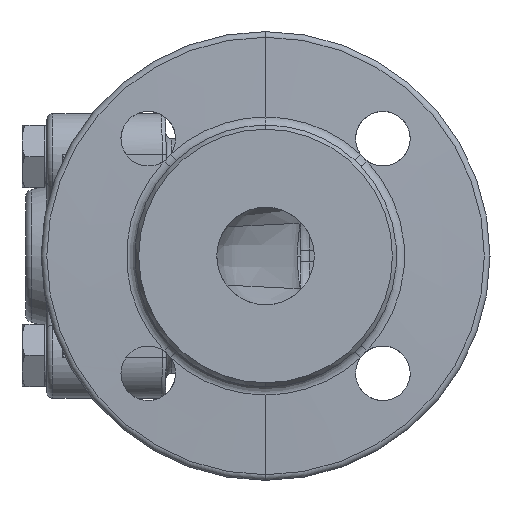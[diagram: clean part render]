
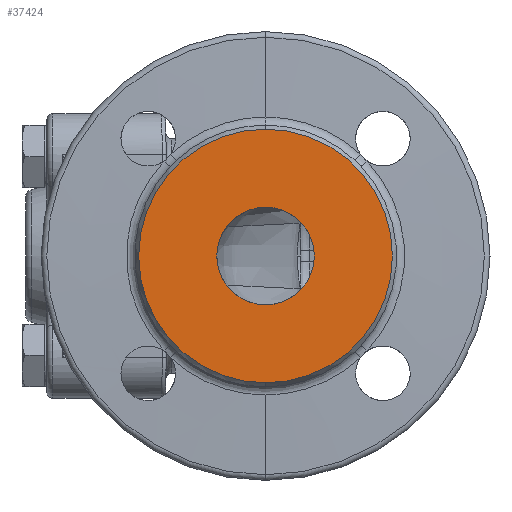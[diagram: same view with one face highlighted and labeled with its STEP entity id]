
A CAD part, left-side view. The second image highlights one B-rep face of the part: STEP entity #37424.
In plain terms, the highlighted planar face has unit normal (-1, 0, 0).
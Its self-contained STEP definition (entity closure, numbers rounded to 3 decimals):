
#1128 = CARTESIAN_POINT ( 'NONE',  ( 0., 0., 12.5 ) ) ;
#1390 = CIRCLE ( 'NONE', #37518, 32.5 ) ;
#3066 = FACE_OUTER_BOUND ( 'NONE', #45760, .T. ) ;
#3103 = CARTESIAN_POINT ( 'NONE',  ( 0., 0., -32.5 ) ) ;
#10876 = ORIENTED_EDGE ( 'NONE', *, *, #67785, .F. ) ;
#13452 = AXIS2_PLACEMENT_3D ( 'NONE', #49371, #37642, #60703 ) ;
#13873 = EDGE_CURVE ( 'NONE', #64252, #14428, #60774, .T. ) ;
#14428 = VERTEX_POINT ( 'NONE', #3103 ) ;
#15509 = ORIENTED_EDGE ( 'NONE', *, *, #53933, .T. ) ;
#23521 = AXIS2_PLACEMENT_3D ( 'NONE', #73814, #31997, #62507 ) ;
#29956 = EDGE_CURVE ( 'NONE', #35024, #36922, #51453, .T. ) ;
#31997 = DIRECTION ( 'NONE',  ( -1., 0., 0. ) ) ;
#32182 = CIRCLE ( 'NONE', #13452, 12.5 ) ;
#33529 = CARTESIAN_POINT ( 'NONE',  ( 0., 0., 0. ) ) ;
#35024 = VERTEX_POINT ( 'NONE', #39684 ) ;
#36330 = DIRECTION ( 'NONE',  ( -1., 0., 0. ) ) ;
#36922 = VERTEX_POINT ( 'NONE', #1128 ) ;
#37424 = ADVANCED_FACE ( 'NONE', ( #56606, #3066 ), #39014, .T. ) ;
#37518 = AXIS2_PLACEMENT_3D ( 'NONE', #71119, #36330, #52408 ) ;
#37642 = DIRECTION ( 'NONE',  ( -1., 0., 0. ) ) ;
#39014 = PLANE ( 'NONE',  #53813 ) ;
#39684 = CARTESIAN_POINT ( 'NONE',  ( 0., 0., -12.5 ) ) ;
#42248 = CARTESIAN_POINT ( 'NONE',  ( 0., 0., 0. ) ) ;
#42645 = AXIS2_PLACEMENT_3D ( 'NONE', #42248, #59464, #47742 ) ;
#42686 = ORIENTED_EDGE ( 'NONE', *, *, #29956, .F. ) ;
#45760 = EDGE_LOOP ( 'NONE', ( #15509, #63550 ) ) ;
#47742 = DIRECTION ( 'NONE',  ( 0., 0., 1. ) ) ;
#49371 = CARTESIAN_POINT ( 'NONE',  ( 0., 0., 0. ) ) ;
#50012 = CARTESIAN_POINT ( 'NONE',  ( 0., 0., 32.5 ) ) ;
#51453 = CIRCLE ( 'NONE', #42645, 12.5 ) ;
#52408 = DIRECTION ( 'NONE',  ( 0., 0., 1. ) ) ;
#53079 = EDGE_LOOP ( 'NONE', ( #42686, #10876 ) ) ;
#53813 = AXIS2_PLACEMENT_3D ( 'NONE', #33529, #56210, #57776 ) ;
#53933 = EDGE_CURVE ( 'NONE', #14428, #64252, #1390, .T. ) ;
#56210 = DIRECTION ( 'NONE',  ( -1., 0., 0. ) ) ;
#56606 = FACE_BOUND ( 'NONE', #53079, .T. ) ;
#57776 = DIRECTION ( 'NONE',  ( 0., 0., 1. ) ) ;
#59464 = DIRECTION ( 'NONE',  ( -1., 0., 0. ) ) ;
#60703 = DIRECTION ( 'NONE',  ( 0., 0., 1. ) ) ;
#60774 = CIRCLE ( 'NONE', #23521, 32.5 ) ;
#62507 = DIRECTION ( 'NONE',  ( 0., 0., 1. ) ) ;
#63550 = ORIENTED_EDGE ( 'NONE', *, *, #13873, .T. ) ;
#64252 = VERTEX_POINT ( 'NONE', #50012 ) ;
#67785 = EDGE_CURVE ( 'NONE', #36922, #35024, #32182, .T. ) ;
#71119 = CARTESIAN_POINT ( 'NONE',  ( 0., 0., 0. ) ) ;
#73814 = CARTESIAN_POINT ( 'NONE',  ( 0., 0., 0. ) ) ;
